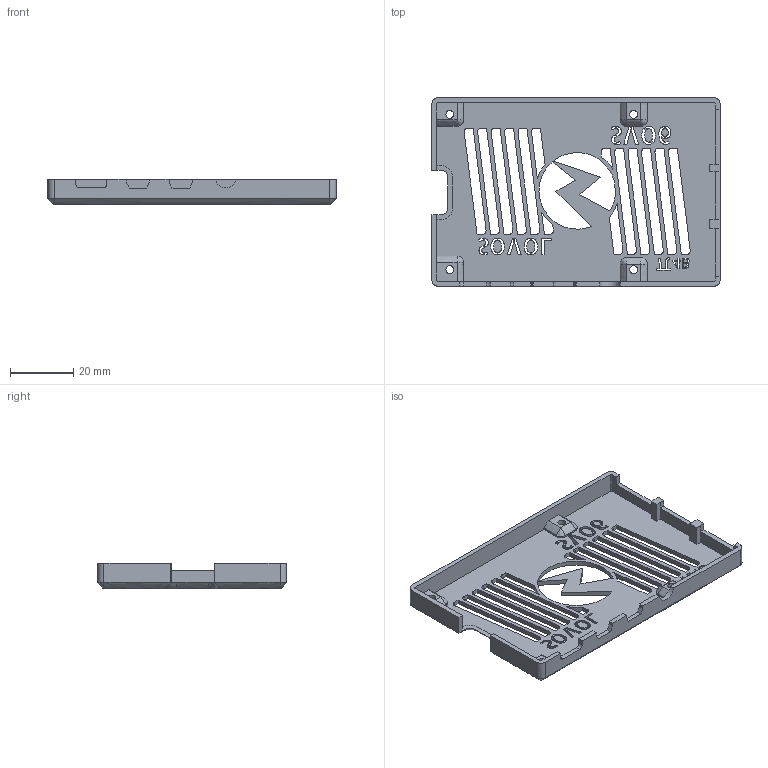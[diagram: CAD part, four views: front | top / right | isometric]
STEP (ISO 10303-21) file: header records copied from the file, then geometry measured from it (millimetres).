
FILE_DESCRIPTION(/* description */ ('STEP AP242','CAx-IF Rec.Pracs.---Representation and Presentation of Product Manufacturing Information (PMI)---4.0---2014-10-13','CAx-IF Rec.Pracs.---3D Tessellated Geometry---0.4---2014-09-14','2;1'),/* implementation_level */ '2;1');
FILE_NAME(/* name */ '65281cdb3e077a3ef37d3403',/* time_stamp */ '2023-10-12T16:20:44Z',/* author */ (''),/* organization */ (''),/* preprocessor_version */ 'ST-DEVELOPER v19.4',/* originating_system */ ' ',/* authorisation */ ' ');
FILE_SCHEMA (('AP242_MANAGED_MODEL_BASED_3D_ENGINEERING_MIM_LF { 1 0 10303 442 1 1 4 }'));
Length unit declared in the file: metre
Products named in the file (1): Base
Bounding box: 91 x 59.6 x 8 mm (x, y, z)
Volume: 8132.4 mm3; surface area: 13178.9 mm2
Topology: 1 solids, 1 shells, 585 faces, 1719 edges, 1124 vertices
Faces by surface type: bspline 288, plane 236, cylinder 57, cone 4
Full cylindrical faces by diameter (mm): 2.5 x4
Entity records: 20791 total; most frequent: CARTESIAN_POINT 7138, ORIENTED_EDGE 3394, DIRECTION 1805, EDGE_CURVE 1697, VERTEX_POINT 1124, LINE 987, VECTOR 987, EDGE_LOOP 687
